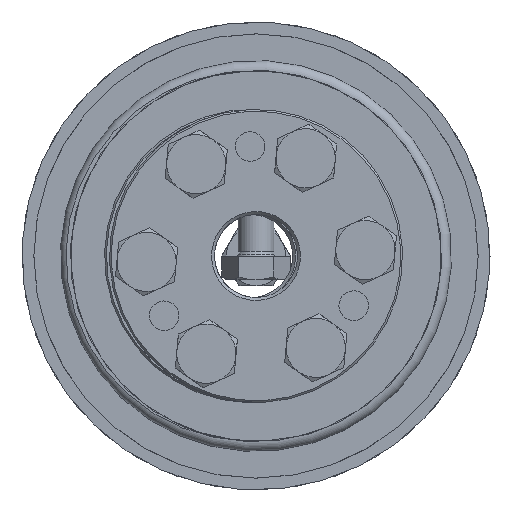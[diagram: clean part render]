
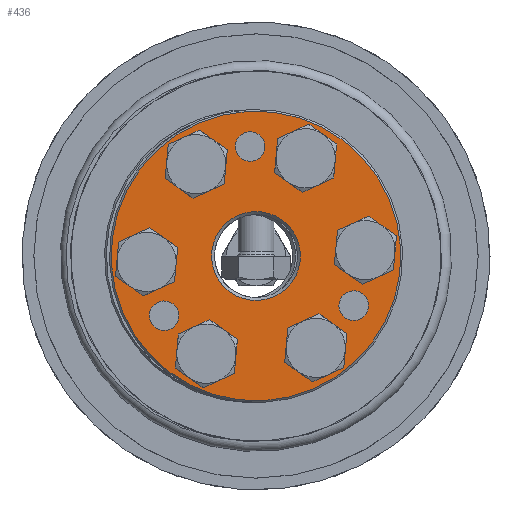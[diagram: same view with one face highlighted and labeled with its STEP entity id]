
A CAD part, left-side view. The second image highlights one B-rep face of the part: STEP entity #436.
In plain terms, the highlighted planar face has unit normal (-1, 0, 0).
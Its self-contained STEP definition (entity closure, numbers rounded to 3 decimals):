
#436 = ADVANCED_FACE( 'NONE', ( #757, #758, #759, #760, #761, #762, #763, #764, #765, #766, #767 ), #768, .F. );
#757 = FACE_OUTER_BOUND( '', #1386, .T. );
#758 = FACE_BOUND( '', #1387, .T. );
#759 = FACE_BOUND( '', #1388, .T. );
#760 = FACE_BOUND( '', #1389, .T. );
#761 = FACE_BOUND( '', #1390, .T. );
#762 = FACE_BOUND( '', #1391, .T. );
#763 = FACE_BOUND( '', #1392, .T. );
#764 = FACE_BOUND( '', #1393, .T. );
#765 = FACE_BOUND( '', #1394, .T. );
#766 = FACE_BOUND( '', #1395, .T. );
#767 = FACE_BOUND( '', #1396, .T. );
#768 = PLANE( '', #1397 );
#1386 = EDGE_LOOP( '', ( #2139 ) );
#1387 = EDGE_LOOP( '', ( #2140 ) );
#1388 = EDGE_LOOP( '', ( #2141 ) );
#1389 = EDGE_LOOP( '', ( #2142 ) );
#1390 = EDGE_LOOP( '', ( #2143 ) );
#1391 = EDGE_LOOP( '', ( #2144 ) );
#1392 = EDGE_LOOP( '', ( #2145 ) );
#1393 = EDGE_LOOP( '', ( #2146 ) );
#1394 = EDGE_LOOP( '', ( #2147 ) );
#1395 = EDGE_LOOP( '', ( #2148 ) );
#1396 = EDGE_LOOP( '', ( #2149 ) );
#1397 = AXIS2_PLACEMENT_3D( '', #2150, #2151, #2152 );
#2139 = ORIENTED_EDGE( '', *, *, #3214, .T. );
#2140 = ORIENTED_EDGE( '', *, *, #3212, .T. );
#2141 = ORIENTED_EDGE( '', *, *, #3215, .F. );
#2142 = ORIENTED_EDGE( '', *, *, #3216, .F. );
#2143 = ORIENTED_EDGE( '', *, *, #3217, .F. );
#2144 = ORIENTED_EDGE( '', *, *, #3210, .F. );
#2145 = ORIENTED_EDGE( '', *, *, #3199, .F. );
#2146 = ORIENTED_EDGE( '', *, *, #3197, .F. );
#2147 = ORIENTED_EDGE( '', *, *, #3218, .F. );
#2148 = ORIENTED_EDGE( '', *, *, #3211, .F. );
#2149 = ORIENTED_EDGE( '', *, *, #3219, .F. );
#2150 = CARTESIAN_POINT( '', ( 0., 7., 0. ) );
#2151 = DIRECTION( '', ( 1., 0., 0. ) );
#2152 = DIRECTION( '', ( 0., 1., 0. ) );
#3197 = EDGE_CURVE( 'NONE', #3558, #3558, #3559, .T. );
#3199 = EDGE_CURVE( 'NONE', #3562, #3562, #3563, .T. );
#3210 = EDGE_CURVE( 'NONE', #3584, #3584, #3585, .T. );
#3211 = EDGE_CURVE( 'NONE', #3586, #3586, #3587, .T. );
#3212 = EDGE_CURVE( 'NONE', #3588, #3588, #3589, .T. );
#3214 = EDGE_CURVE( 'NONE', #3592, #3592, #3593, .T. );
#3215 = EDGE_CURVE( 'NONE', #3594, #3594, #3595, .T. );
#3216 = EDGE_CURVE( 'NONE', #3596, #3596, #3597, .T. );
#3217 = EDGE_CURVE( 'NONE', #3598, #3598, #3599, .T. );
#3218 = EDGE_CURVE( 'NONE', #3600, #3600, #3601, .T. );
#3219 = EDGE_CURVE( 'NONE', #3602, #3602, #3603, .T. );
#3558 = VERTEX_POINT( '', #4164 );
#3559 = CIRCLE( '', #4165, 2.5 );
#3562 = VERTEX_POINT( '', #4168 );
#3563 = CIRCLE( '', #4169, 2.5 );
#3584 = VERTEX_POINT( '', #4190 );
#3585 = CIRCLE( '', #4191, 3.3 );
#3586 = VERTEX_POINT( '', #4192 );
#3587 = CIRCLE( '', #4193, 3.3 );
#3588 = VERTEX_POINT( '', #4194 );
#3589 = CIRCLE( '', #4195, 7.5 );
#3592 = VERTEX_POINT( '', #4198 );
#3593 = CIRCLE( '', #4199, 24.45 );
#3594 = VERTEX_POINT( '', #4200 );
#3595 = CIRCLE( '', #4201, 3.3 );
#3596 = VERTEX_POINT( '', #4202 );
#3597 = CIRCLE( '', #4203, 3.3 );
#3598 = VERTEX_POINT( '', #4204 );
#3599 = CIRCLE( '', #4205, 2.5 );
#3600 = VERTEX_POINT( '', #4206 );
#3601 = CIRCLE( '', #4207, 3.3 );
#3602 = VERTEX_POINT( '', #4208 );
#3603 = CIRCLE( '', #4209, 3.3 );
#4164 = CARTESIAN_POINT( '', ( 0., 9.25, -13.521 ) );
#4165 = AXIS2_PLACEMENT_3D( '', #5152, #5153, #5154 );
#4168 = CARTESIAN_POINT( '', ( 0., 9.25, 18.521 ) );
#4169 = AXIS2_PLACEMENT_3D( '', #5158, #5159, #5160 );
#4190 = CARTESIAN_POINT( '', ( 0., 0., -15.2 ) );
#4191 = AXIS2_PLACEMENT_3D( '', #5191, #5192, #5193 );
#4192 = CARTESIAN_POINT( '', ( 0., 0., 21.8 ) );
#4193 = AXIS2_PLACEMENT_3D( '', #5194, #5195, #5196 );
#4194 = CARTESIAN_POINT( '', ( 0., 0., -7.5 ) );
#4195 = AXIS2_PLACEMENT_3D( '', #5197, #5198, #5199 );
#4198 = CARTESIAN_POINT( '', ( 0., 0., -24.45 ) );
#4199 = AXIS2_PLACEMENT_3D( '', #5203, #5204, #5205 );
#4200 = CARTESIAN_POINT( '', ( 0., 16.021, 12.55 ) );
#4201 = AXIS2_PLACEMENT_3D( '', #5206, #5207, #5208 );
#4202 = CARTESIAN_POINT( '', ( 0., -16.021, 12.55 ) );
#4203 = AXIS2_PLACEMENT_3D( '', #5209, #5210, #5211 );
#4204 = CARTESIAN_POINT( '', ( 0., -18.5, 2.5 ) );
#4205 = AXIS2_PLACEMENT_3D( '', #5212, #5213, #5214 );
#4206 = CARTESIAN_POINT( '', ( 0., -16.021, -5.95 ) );
#4207 = AXIS2_PLACEMENT_3D( '', #5215, #5216, #5217 );
#4208 = CARTESIAN_POINT( '', ( 0., 16.021, -5.95 ) );
#4209 = AXIS2_PLACEMENT_3D( '', #5218, #5219, #5220 );
#5152 = CARTESIAN_POINT( '', ( 0., 9.25, -16.021 ) );
#5153 = DIRECTION( '', ( -1., 0., 0. ) );
#5154 = DIRECTION( '', ( 0., 0., 1. ) );
#5158 = CARTESIAN_POINT( '', ( 0., 9.25, 16.021 ) );
#5159 = DIRECTION( '', ( -1., 0., 0. ) );
#5160 = DIRECTION( '', ( 0., 0., 1. ) );
#5191 = CARTESIAN_POINT( '', ( 0., 0., -18.5 ) );
#5192 = DIRECTION( '', ( -1., 0., 0. ) );
#5193 = DIRECTION( '', ( 0., 0., 1. ) );
#5194 = CARTESIAN_POINT( '', ( 0., 0., 18.5 ) );
#5195 = DIRECTION( '', ( -1., 0., 0. ) );
#5196 = DIRECTION( '', ( 0., 0., 1. ) );
#5197 = CARTESIAN_POINT( '', ( 0., 0., 0. ) );
#5198 = DIRECTION( '', ( 1., 0., 0. ) );
#5199 = DIRECTION( '', ( 0., 0., -1. ) );
#5203 = CARTESIAN_POINT( '', ( 0., 0., 0. ) );
#5204 = DIRECTION( '', ( -1., 0., 0. ) );
#5205 = DIRECTION( '', ( 0., 0., -1. ) );
#5206 = CARTESIAN_POINT( '', ( 0., 16.021, 9.25 ) );
#5207 = DIRECTION( '', ( -1., 0., 0. ) );
#5208 = DIRECTION( '', ( 0., 0., 1. ) );
#5209 = CARTESIAN_POINT( '', ( 0., -16.021, 9.25 ) );
#5210 = DIRECTION( '', ( -1., 0., 0. ) );
#5211 = DIRECTION( '', ( 0., 0., 1. ) );
#5212 = CARTESIAN_POINT( '', ( 0., -18.5, 0. ) );
#5213 = DIRECTION( '', ( -1., 0., 0. ) );
#5214 = DIRECTION( '', ( 0., 0., 1. ) );
#5215 = CARTESIAN_POINT( '', ( 0., -16.021, -9.25 ) );
#5216 = DIRECTION( '', ( -1., 0., 0. ) );
#5217 = DIRECTION( '', ( 0., 0., 1. ) );
#5218 = CARTESIAN_POINT( '', ( 0., 16.021, -9.25 ) );
#5219 = DIRECTION( '', ( -1., 0., 0. ) );
#5220 = DIRECTION( '', ( 0., 0., 1. ) );
